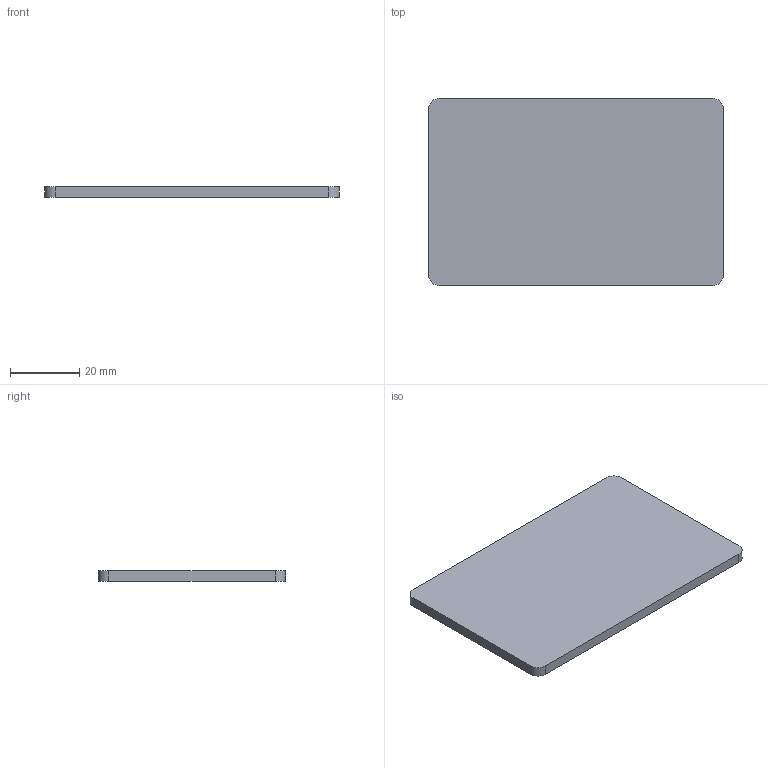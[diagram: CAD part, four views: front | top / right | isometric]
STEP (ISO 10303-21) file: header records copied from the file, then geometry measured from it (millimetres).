
FILE_DESCRIPTION(('Open CASCADE Model'),'2;1');
FILE_NAME('Open CASCADE Shape Model','2026-10-21T17:23:48',('Author'),( 'Open CASCADE'),'Open CASCADE STEP processor 7.9','Open CASCADE 7.9' ,'Unknown');
FILE_SCHEMA(('AUTOMOTIVE_DESIGN { 1 0 10303 214 1 1 1 1 }'));
Length unit declared in the file: millimetre
Products named in the file (1): Open CASCADE STEP translator 7.9 1
Bounding box: 85 x 54 x 3 mm (x, y, z)
Volume: 13746.8 mm3; surface area: 9983.1 mm2
Topology: 1 solids, 1 shells, 10 faces, 24 edges, 16 vertices
Faces by surface type: plane 6, cylinder 4
Entity records: 630 total; most frequent: CARTESIAN_POINT 123, DIRECTION 98, LINE 56, VECTOR 56, ORIENTED_EDGE 48, PCURVE 48, DEFINITIONAL_REPRESENTATION 48, EDGE_CURVE 24
